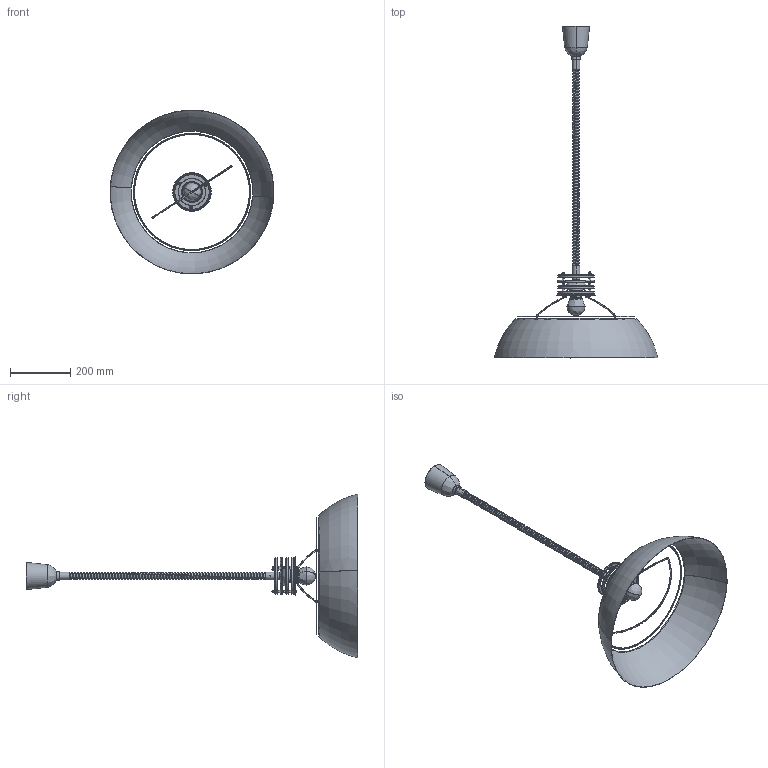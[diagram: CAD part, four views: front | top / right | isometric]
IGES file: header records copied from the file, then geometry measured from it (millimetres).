
Start section: SolidWorks IGES file using analytic representation for surfaces
Global section: file name: E:\3D lampy\Ufo\Ufo_5322.IGS; native system: SolidWorks 2016; preprocessor: SolidWorks 2016; author: Asia; date: 170928.115633; units: millimetre
Bounding box: 542.76 x 1100.25 x 542.76 mm (x, y, z)
Surface area: 768931.7 mm2 (no closed solid volume)
Topology: 0 solids, 0 shells, 774 faces, 12250 edges, 12212 vertices
Faces by surface type: revolution 472, bspline 302
